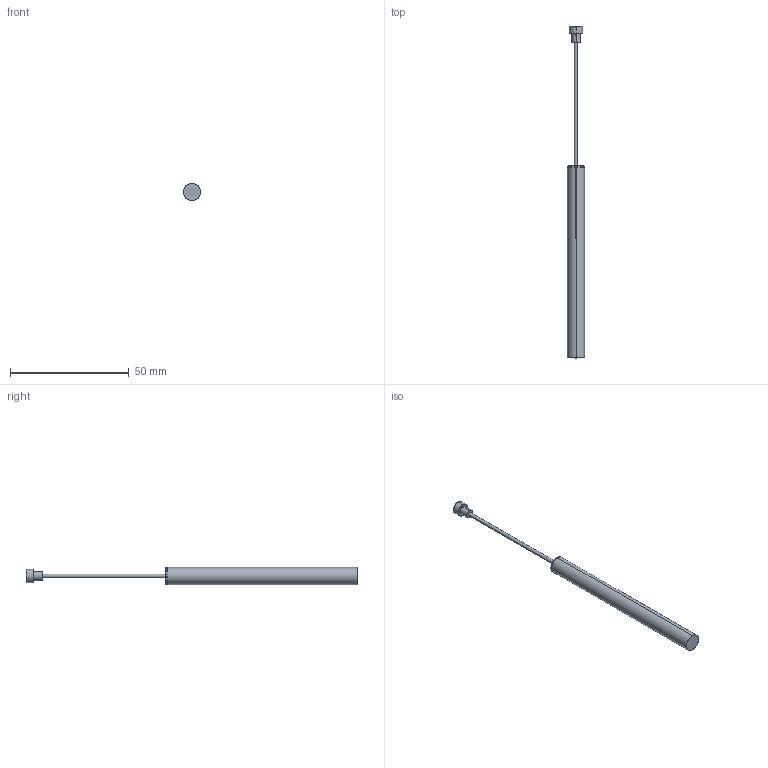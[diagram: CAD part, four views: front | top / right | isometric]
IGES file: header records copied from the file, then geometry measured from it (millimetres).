
Start section: SolidWorks IGES file using analytic representation for surfaces
Bounding box: 7.2 x 140 x 7.2 mm (x, y, z)
Surface area: 2461.5 mm2 (no closed solid volume)
Topology: 0 solids, 0 shells, 19 faces, 280 edges, 280 vertices
Faces by surface type: revolution 10, bspline 9
